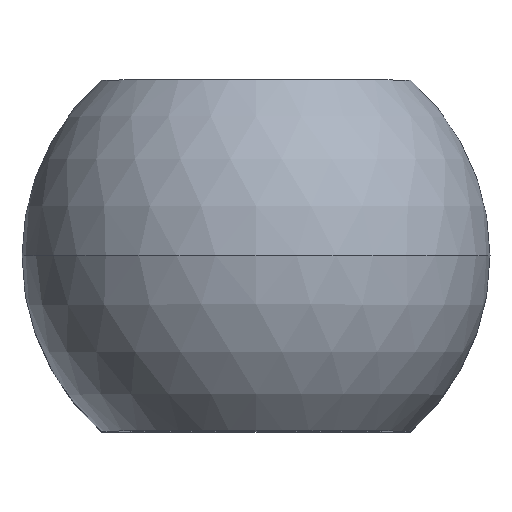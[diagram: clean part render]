
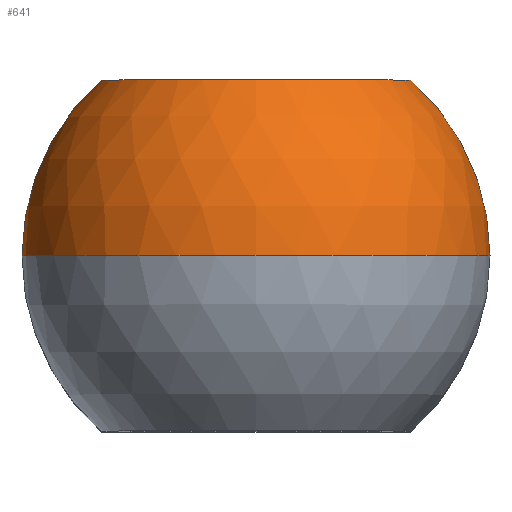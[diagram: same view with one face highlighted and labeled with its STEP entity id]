
A CAD part, top view. The second image highlights one B-rep face of the part: STEP entity #641.
In plain terms, the highlighted spherical face has radius 8 mm.
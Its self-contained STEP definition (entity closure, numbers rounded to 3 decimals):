
#4 = DIRECTION ( 'NONE',  ( -1., 0., 0. ) ) ;
#15 = ORIENTED_EDGE ( 'NONE', *, *, #563, .F. ) ;
#30 = DIRECTION ( 'NONE',  ( 1., 0., 0. ) ) ;
#34 = DIRECTION ( 'NONE',  ( 0., 1., 0. ) ) ;
#42 = CARTESIAN_POINT ( 'NONE',  ( 0., 0., 28. ) ) ;
#53 = EDGE_CURVE ( 'NONE', #463, #207, #380, .T. ) ;
#114 = ORIENTED_EDGE ( 'NONE', *, *, #426, .T. ) ;
#174 = VERTEX_POINT ( 'NONE', #590 ) ;
#179 = DIRECTION ( 'NONE',  ( 0., 0., -1. ) ) ;
#192 = AXIS2_PLACEMENT_3D ( 'NONE', #491, #179, #4 ) ;
#207 = VERTEX_POINT ( 'NONE', #653 ) ;
#208 = DIRECTION ( 'NONE',  ( -1., 0., 0. ) ) ;
#211 = CIRCLE ( 'NONE', #676, 5.292 ) ;
#245 = EDGE_CURVE ( 'NONE', #409, #174, #682, .T. ) ;
#252 = AXIS2_PLACEMENT_3D ( 'NONE', #543, #378, #708 ) ;
#266 = SPHERICAL_SURFACE ( 'NONE', #685, 8. ) ;
#276 = DIRECTION ( 'NONE',  ( 0., 1., 0. ) ) ;
#277 = ORIENTED_EDGE ( 'NONE', *, *, #53, .T. ) ;
#328 = CARTESIAN_POINT ( 'NONE',  ( 0., 0., 20. ) ) ;
#331 = AXIS2_PLACEMENT_3D ( 'NONE', #374, #705, #431 ) ;
#364 = CARTESIAN_POINT ( 'NONE',  ( 0., 0., 20. ) ) ;
#374 = CARTESIAN_POINT ( 'NONE',  ( 0., 0., 20. ) ) ;
#378 = DIRECTION ( 'NONE',  ( 0., -1., 0. ) ) ;
#380 = CIRCLE ( 'NONE', #710, 8. ) ;
#409 = VERTEX_POINT ( 'NONE', #568 ) ;
#425 = VERTEX_POINT ( 'NONE', #457 ) ;
#426 = EDGE_CURVE ( 'NONE', #425, #174, #211, .T. ) ;
#431 = DIRECTION ( 'NONE',  ( -1., 0., 0. ) ) ;
#457 = CARTESIAN_POINT ( 'NONE',  ( 5.292, 6., 20. ) ) ;
#463 = VERTEX_POINT ( 'NONE', #42 ) ;
#486 = EDGE_LOOP ( 'NONE', ( #556, #277, #15, #114, #506 ) ) ;
#491 = CARTESIAN_POINT ( 'NONE',  ( 0., 0., 20. ) ) ;
#506 = ORIENTED_EDGE ( 'NONE', *, *, #245, .F. ) ;
#516 = CIRCLE ( 'NONE', #252, 8. ) ;
#536 = DIRECTION ( 'NONE',  ( -1., 0., 0. ) ) ;
#543 = CARTESIAN_POINT ( 'NONE',  ( 0., 0., 20. ) ) ;
#556 = ORIENTED_EDGE ( 'NONE', *, *, #571, .F. ) ;
#563 = EDGE_CURVE ( 'NONE', #425, #207, #627, .T. ) ;
#568 = CARTESIAN_POINT ( 'NONE',  ( -8., 0., 20. ) ) ;
#571 = EDGE_CURVE ( 'NONE', #463, #409, #516, .T. ) ;
#590 = CARTESIAN_POINT ( 'NONE',  ( -5.292, 6., 20. ) ) ;
#616 = CARTESIAN_POINT ( 'NONE',  ( 0., 6., 20. ) ) ;
#627 = CIRCLE ( 'NONE', #331, 8. ) ;
#641 = ADVANCED_FACE ( 'NONE', ( #684 ), #266, .T. ) ;
#653 = CARTESIAN_POINT ( 'NONE',  ( 8., 0., 20. ) ) ;
#676 = AXIS2_PLACEMENT_3D ( 'NONE', #616, #683, #30 ) ;
#682 = CIRCLE ( 'NONE', #192, 8. ) ;
#683 = DIRECTION ( 'NONE',  ( 0., -1., 0. ) ) ;
#684 = FACE_OUTER_BOUND ( 'NONE', #486, .T. ) ;
#685 = AXIS2_PLACEMENT_3D ( 'NONE', #328, #276, #536 ) ;
#705 = DIRECTION ( 'NONE',  ( 0., 0., -1. ) ) ;
#708 = DIRECTION ( 'NONE',  ( 0., 0., -1. ) ) ;
#710 = AXIS2_PLACEMENT_3D ( 'NONE', #364, #34, #208 ) ;
